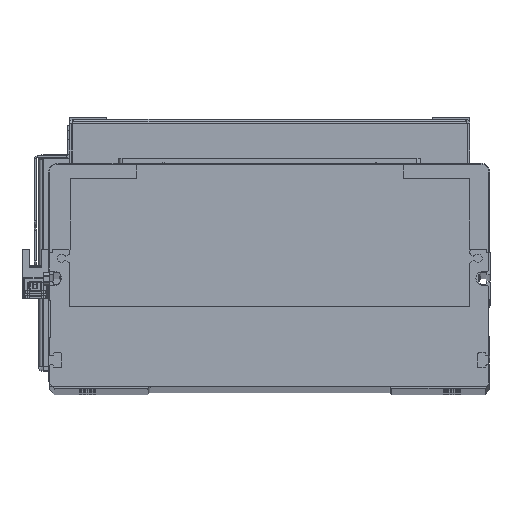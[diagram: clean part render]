
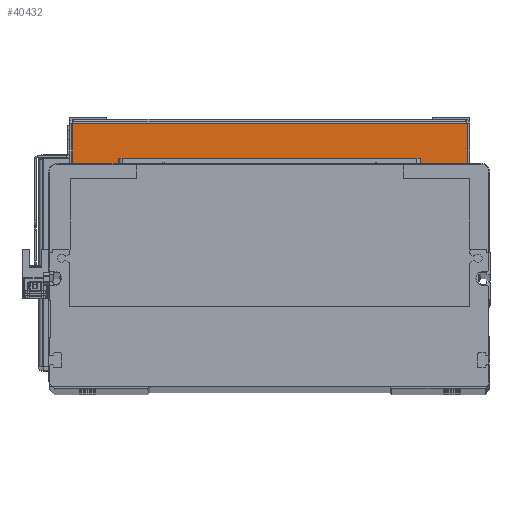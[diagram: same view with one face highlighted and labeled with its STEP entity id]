
A CAD part, top view. The second image highlights one B-rep face of the part: STEP entity #40432.
In plain terms, the highlighted planar face has unit normal (0, 0, 1) as drawn and (0, -1, 0) by its records, which use the part's own axes.
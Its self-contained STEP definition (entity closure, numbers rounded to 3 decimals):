
#793 = VERTEX_POINT ( 'NONE', #40309 ) ;
#1247 = CARTESIAN_POINT ( 'NONE',  ( 100., -150., 20.3 ) ) ;
#1967 = CARTESIAN_POINT ( 'NONE',  ( -98.7, -150., 20.3 ) ) ;
#2571 = EDGE_CURVE ( 'NONE', #793, #24048, #25136, .T. ) ;
#2768 = EDGE_CURVE ( 'NONE', #24048, #17028, #45519, .T. ) ;
#6511 = VECTOR ( 'NONE', #20869, 1000. ) ;
#9013 = CARTESIAN_POINT ( 'NONE',  ( 98.7, -150., 0. ) ) ;
#9610 = CARTESIAN_POINT ( 'NONE',  ( 0., -150., 21.3 ) ) ;
#9657 = LINE ( 'NONE', #1967, #10864 ) ;
#10569 = VECTOR ( 'NONE', #41716, 1000. ) ;
#10668 = CARTESIAN_POINT ( 'NONE',  ( 98.7, -150., 20.3 ) ) ;
#10864 = VECTOR ( 'NONE', #45255, 1000. ) ;
#12657 = DIRECTION ( 'NONE',  ( 0., 0., -1. ) ) ;
#17028 = VERTEX_POINT ( 'NONE', #9013 ) ;
#18014 = CARTESIAN_POINT ( 'NONE',  ( 0., -150., 0. ) ) ;
#19169 = ORIENTED_EDGE ( 'NONE', *, *, #43567, .T. ) ;
#19422 = VECTOR ( 'NONE', #33749, 1000. ) ;
#20869 = DIRECTION ( 'NONE',  ( 1., 0., 0. ) ) ;
#24048 = VERTEX_POINT ( 'NONE', #32935 ) ;
#24392 = EDGE_LOOP ( 'NONE', ( #45445, #30968, #19169, #37730 ) ) ;
#25136 = LINE ( 'NONE', #1247, #6511 ) ;
#28118 = AXIS2_PLACEMENT_3D ( 'NONE', #9610, #31977, #12657 ) ;
#30431 = LINE ( 'NONE', #18014, #19422 ) ;
#30968 = ORIENTED_EDGE ( 'NONE', *, *, #36514, .T. ) ;
#31977 = DIRECTION ( 'NONE',  ( 0., 1., 0. ) ) ;
#32488 = PLANE ( 'NONE',  #28118 ) ;
#32935 = CARTESIAN_POINT ( 'NONE',  ( 98.7, -150., 20.3 ) ) ;
#33556 = VERTEX_POINT ( 'NONE', #48113 ) ;
#33749 = DIRECTION ( 'NONE',  ( 1., 0., 0. ) ) ;
#36514 = EDGE_CURVE ( 'NONE', #793, #33556, #9657, .T. ) ;
#36595 = FACE_OUTER_BOUND ( 'NONE', #24392, .T. ) ;
#37730 = ORIENTED_EDGE ( 'NONE', *, *, #2768, .F. ) ;
#40309 = CARTESIAN_POINT ( 'NONE',  ( -98.7, -150., 20.3 ) ) ;
#40432 = ADVANCED_FACE ( 'NONE', ( #36595 ), #32488, .F. ) ;
#41716 = DIRECTION ( 'NONE',  ( 0., 0., -1. ) ) ;
#43567 = EDGE_CURVE ( 'NONE', #33556, #17028, #30431, .T. ) ;
#45255 = DIRECTION ( 'NONE',  ( 0., 0., -1. ) ) ;
#45445 = ORIENTED_EDGE ( 'NONE', *, *, #2571, .F. ) ;
#45519 = LINE ( 'NONE', #10668, #10569 ) ;
#48113 = CARTESIAN_POINT ( 'NONE',  ( -98.7, -150., 0. ) ) ;
